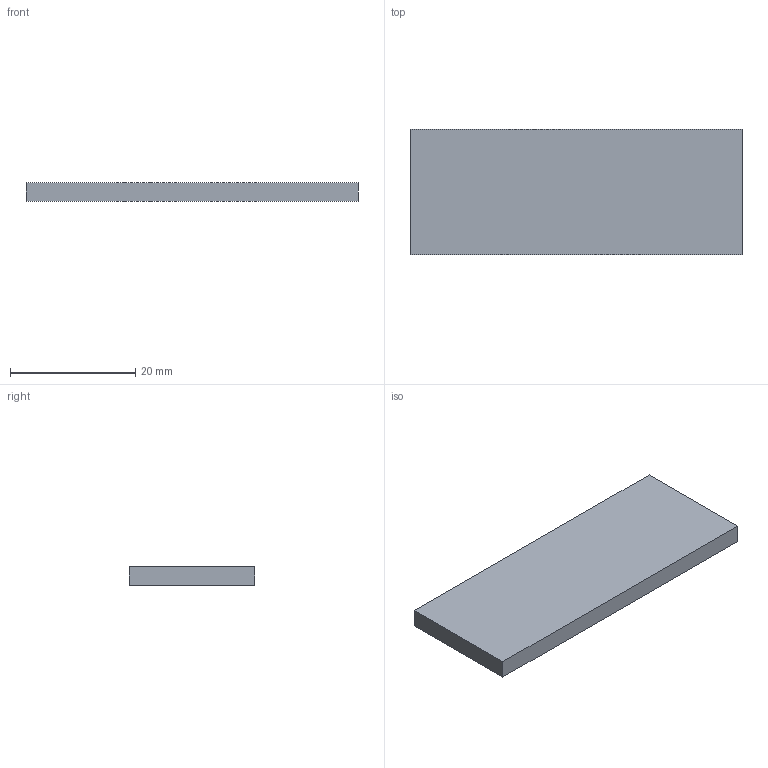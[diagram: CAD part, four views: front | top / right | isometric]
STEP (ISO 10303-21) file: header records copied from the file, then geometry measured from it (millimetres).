
FILE_DESCRIPTION(('FreeCAD Model'),'2;1');
FILE_NAME('/home/mike/Documents/3D/FreeCAD/CNC/STEP/CabelBoxTopX.step', '2017-05-26T18:20:58',('Author'),(''), 'Open CASCADE STEP processor 6.7','FreeCAD','Unknown');
FILE_SCHEMA(('AUTOMOTIVE_DESIGN_CC2 { 1 2 10303 214 -1 1 5 4 }'));
Length unit declared in the file: millimetre
Products named in the file (1): TopX
Bounding box: 53 x 20 x 3 mm (x, y, z)
Volume: 3180 mm3; surface area: 2558 mm2
Topology: 1 solids, 1 shells, 6 faces, 12 edges, 8 vertices
Faces by surface type: plane 6
Entity records: 333 total; most frequent: CARTESIAN_POINT 51, DIRECTION 50, LINE 36, VECTOR 36, ORIENTED_EDGE 24, PCURVE 24, DEFINITIONAL_REPRESENTATION 24, EDGE_CURVE 12
